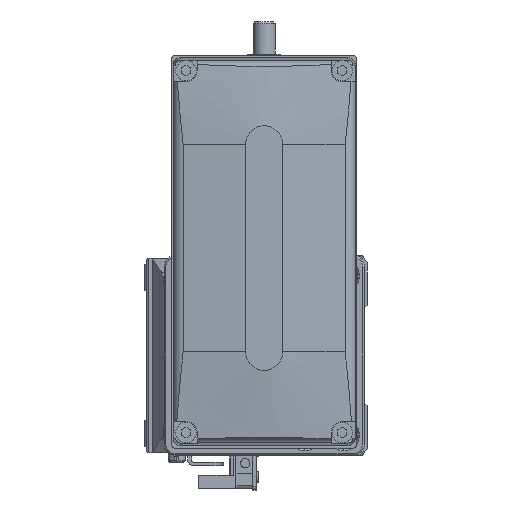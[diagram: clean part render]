
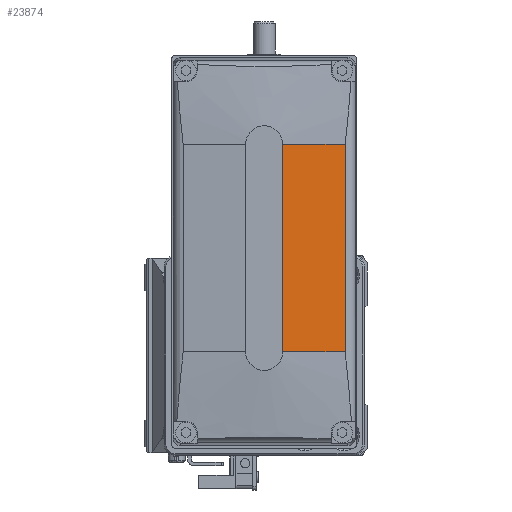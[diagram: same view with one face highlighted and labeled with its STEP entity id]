
A CAD part, left-side view. The second image highlights one B-rep face of the part: STEP entity #23874.
In plain terms, the highlighted planar face has unit normal (-0.996, -0.087, 0) as drawn and (-0.996, 0, -0.087) by its records, which use the part's own axes.
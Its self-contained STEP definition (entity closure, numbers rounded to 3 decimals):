
#1616 = VECTOR ( 'NONE', #26513, 1000. ) ;
#3396 = VERTEX_POINT ( 'NONE', #29261 ) ;
#5057 = DIRECTION ( 'NONE',  ( 0., 1., 0. ) ) ;
#6605 = AXIS2_PLACEMENT_3D ( 'NONE', #24336, #15938, #10537 ) ;
#7222 = VECTOR ( 'NONE', #12911, 1000. ) ;
#7893 = CARTESIAN_POINT ( 'NONE',  ( -50., 128., -5. ) ) ;
#10537 = DIRECTION ( 'NONE',  ( -0.087, 0., 0.996 ) ) ;
#10724 = LINE ( 'NONE', #34754, #17727 ) ;
#11163 = LINE ( 'NONE', #7893, #7222 ) ;
#12911 = DIRECTION ( 'NONE',  ( 0., 1., 0. ) ) ;
#15839 = CARTESIAN_POINT ( 'NONE',  ( -48.525, 28., -21.861 ) ) ;
#15938 = DIRECTION ( 'NONE',  ( -0.996, 0., -0.087 ) ) ;
#17397 = CARTESIAN_POINT ( 'NONE',  ( -48.525, -28., -21.861 ) ) ;
#17727 = VECTOR ( 'NONE', #32199, 1000. ) ;
#17818 = LINE ( 'NONE', #35606, #36197 ) ;
#19502 = ORIENTED_EDGE ( 'NONE', *, *, #26378, .F. ) ;
#20318 = VERTEX_POINT ( 'NONE', #24347 ) ;
#20593 = EDGE_CURVE ( 'NONE', #28120, #20318, #33572, .T. ) ;
#21739 = EDGE_CURVE ( 'NONE', #3396, #20318, #11163, .T. ) ;
#23874 = ADVANCED_FACE ( 'NONE', ( #29461 ), #33131, .T. ) ;
#24336 = CARTESIAN_POINT ( 'NONE',  ( -50., 128., -5. ) ) ;
#24347 = CARTESIAN_POINT ( 'NONE',  ( -50., 28., -5. ) ) ;
#25055 = ORIENTED_EDGE ( 'NONE', *, *, #34015, .F. ) ;
#25649 = ORIENTED_EDGE ( 'NONE', *, *, #20593, .F. ) ;
#26378 = EDGE_CURVE ( 'NONE', #32587, #28120, #17818, .T. ) ;
#26513 = DIRECTION ( 'NONE',  ( -0.087, 0., 0.996 ) ) ;
#28120 = VERTEX_POINT ( 'NONE', #15839 ) ;
#29261 = CARTESIAN_POINT ( 'NONE',  ( -50., -28., -5. ) ) ;
#29461 = FACE_OUTER_BOUND ( 'NONE', #31842, .T. ) ;
#31211 = ORIENTED_EDGE ( 'NONE', *, *, #21739, .T. ) ;
#31842 = EDGE_LOOP ( 'NONE', ( #25649, #19502, #25055, #31211 ) ) ;
#32199 = DIRECTION ( 'NONE',  ( 0.087, 0., -0.996 ) ) ;
#32587 = VERTEX_POINT ( 'NONE', #17397 ) ;
#33131 = PLANE ( 'NONE',  #6605 ) ;
#33572 = LINE ( 'NONE', #34557, #1616 ) ;
#34015 = EDGE_CURVE ( 'NONE', #3396, #32587, #10724, .T. ) ;
#34557 = CARTESIAN_POINT ( 'NONE',  ( 43606.406, 28., -499000. ) ) ;
#34754 = CARTESIAN_POINT ( 'NONE',  ( 43606.406, -28., -499000. ) ) ;
#35606 = CARTESIAN_POINT ( 'NONE',  ( -48.525, 128., -21.861 ) ) ;
#36197 = VECTOR ( 'NONE', #5057, 1000. ) ;
